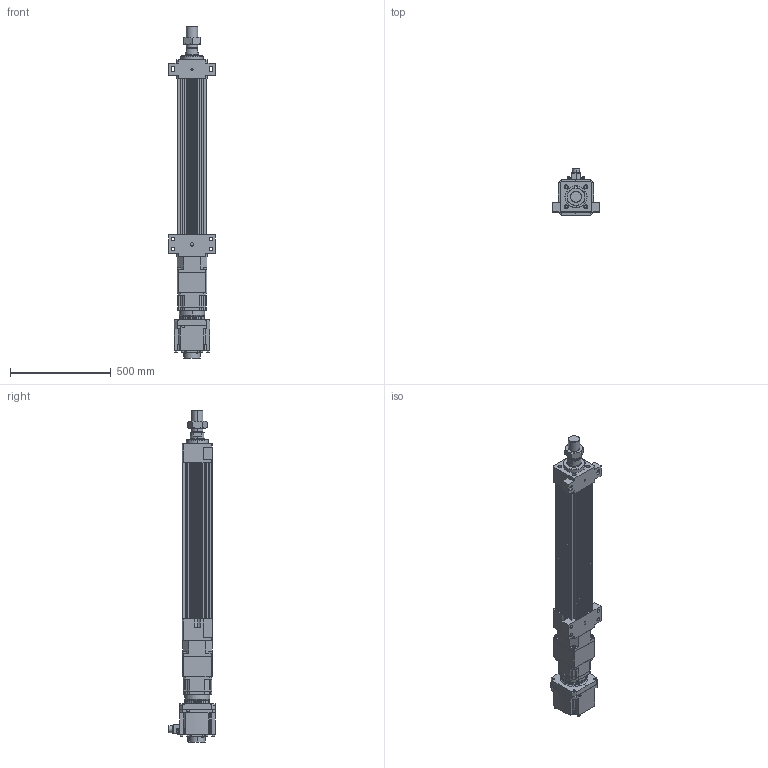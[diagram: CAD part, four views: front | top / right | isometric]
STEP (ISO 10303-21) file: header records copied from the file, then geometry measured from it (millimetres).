
FILE_DESCRIPTION (( 'STEP AP203' ), '1' );
FILE_NAME ('HES150NS(HS)-S500-W035G00-M-FFB.STEP', '2023-02-01T03:13:38', ( 'tms' ), ( '' ), 'SwSTEP 2.0', 'SolidWorks 2013', '' );
FILE_SCHEMA (( 'CONFIG_CONTROL_DESIGN' ));
Length unit declared in the file: millimetre
Products named in the file (9): AB1421; M56X2.0P; HES150-S500-G142-FFB; HG-SR352; HES150 ROD M ST500; P1301500001; HES150NS(HS)-S500-W035G00-M-FFB; P0403500801; AB142-003[HG-SR352]
Assembly tree (8 placements, depth 3):
  HES150NS(HS)-S500-W035G00-M-FFB
    HES150-S500-G142-FFB
    HES150 ROD M ST500
    M56X2.0P
    AB142-003[HG-SR352]
      AB1421
      P1301500001
      P0403500801
    HG-SR352
Bounding box: 230 x 228.85 x 1647.5 mm (x, y, z)
Volume: 18700085.5 mm3; surface area: 2053317.7 mm2
Topology: 5 solids, 23 shells, 1522 faces, 3951 edges, 2569 vertices
Faces by surface type: cylinder 691, plane 599, cone 150, bspline 76, torus 6
Entity records: 55583 total; most frequent: CARTESIAN_POINT 16843, DIRECTION 8091, ORIENTED_EDGE 7808, EDGE_CURVE 3926, AXIS2_PLACEMENT_3D 3042, VERTEX_POINT 2569, VECTOR 2007, LINE 2007
